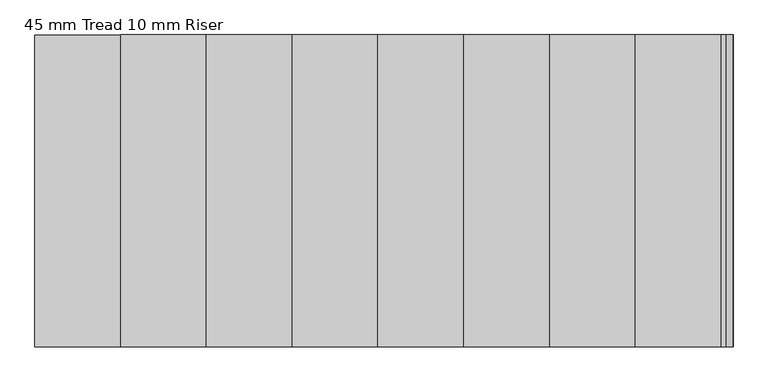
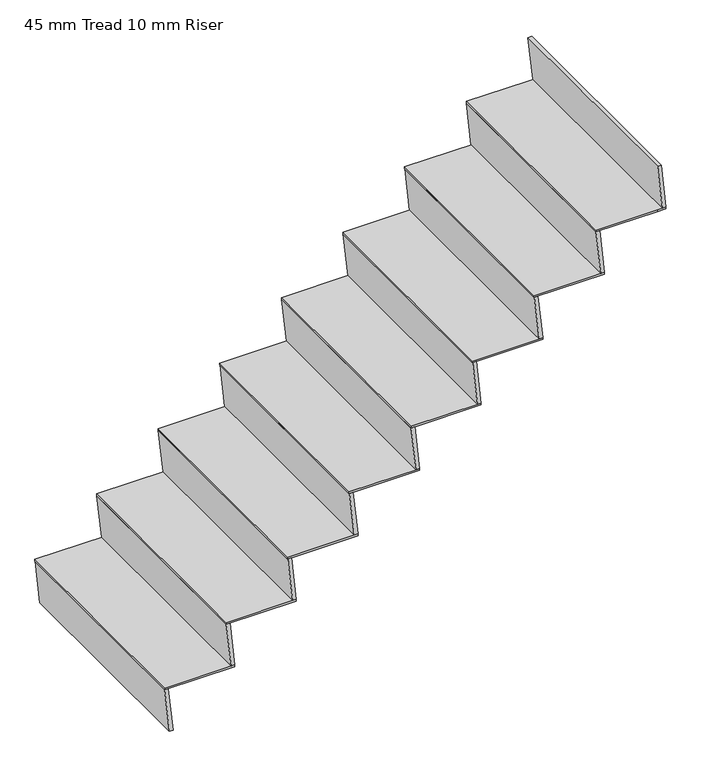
"""IFC4 building model written with IfcOpenShell, lengths in millimetres: stair flight geometry, 45 mm Tread 10 mm Riser."""

from ifc_helpers import new_model, si_unit, origin, place, context, project, spatial, faceted_brep, source, transform, mapped, element, save


def stair_flight_45_mm_tread_10_mm_riser_ba577e64(model_context):
    return source(origin(), model_context, "Body", "Brep", [
        faceted_brep([(12997.5804427, 7700.0, 6892.8571429), (12712.5, 7700.0, 6892.8571429), (12712.5, 6790.0, 6892.8571429), (12997.5804427, 6790.0, 6892.8571429), (12712.5, 7700.0, 6885.3571429), (12997.5804427, 7700.0, 6885.3571429), (12997.5804427, 6790.0, 6885.3571429), (12712.5, 6790.0, 6885.3571429)], [[[0, 1, 2, 3]], [[4, 5, 6, 7]], [[1, 0, 5, 4]], [[2, 1, 4, 7]], [[3, 2, 7, 6]], [[0, 3, 6, 5]]]),
        faceted_brep([(12713.2777778, 6790.0, 6885.3571429), (12732.5, 6790.0, 6700.0), (12747.5804427, 6790.0, 6700.0), (12728.3582205, 6790.0, 6885.3571429), (12713.2777778, 7700.0, 6885.3571429), (12728.3582205, 7700.0, 6885.3571429), (12747.5804427, 7700.0, 6700.0), (12732.5, 7700.0, 6700.0)], [[[0, 1, 2, 3]], [[4, 5, 6, 7]], [[1, 0, 4, 7]], [[2, 1, 7, 6]], [[3, 2, 6, 5]], [[0, 3, 5, 4]]]),
        faceted_brep([(12963.2777778, 6790.0, 7078.2142857), (12982.5, 6790.0, 6892.8571429), (12997.5804427, 6790.0, 6892.8571429), (12978.3582205, 6790.0, 7078.2142857), (12963.2777778, 7700.0, 7078.2142857), (12978.3582205, 7700.0, 7078.2142857), (12997.5804427, 7700.0, 6892.8571429), (12982.5, 7700.0, 6892.8571429)], [[[0, 1, 2, 3]], [[4, 5, 6, 7]], [[1, 0, 4, 7]], [[2, 1, 7, 6]], [[3, 2, 6, 5]], [[0, 3, 5, 4]]]),
        faceted_brep([(13247.5804427, 7700.0, 7085.7142857), (12962.5, 7700.0, 7085.7142857), (12962.5, 6790.0, 7085.7142857), (13247.5804427, 6790.0, 7085.7142857), (12962.5, 7700.0, 7078.2142857), (13247.5804427, 7700.0, 7078.2142857), (13247.5804427, 6790.0, 7078.2142857), (12962.5, 6790.0, 7078.2142857)], [[[0, 1, 2, 3]], [[4, 5, 6, 7]], [[1, 0, 5, 4]], [[2, 1, 4, 7]], [[3, 2, 7, 6]], [[0, 3, 6, 5]]]),
        faceted_brep([(13213.2777778, 6790.0, 7271.0714286), (13232.5, 6790.0, 7085.7142857), (13247.5804427, 6790.0, 7085.7142857), (13228.3582205, 6790.0, 7271.0714286), (13213.2777778, 7700.0, 7271.0714286), (13228.3582205, 7700.0, 7271.0714286), (13247.5804427, 7700.0, 7085.7142857), (13232.5, 7700.0, 7085.7142857)], [[[0, 1, 2, 3]], [[4, 5, 6, 7]], [[1, 0, 4, 7]], [[2, 1, 7, 6]], [[3, 2, 6, 5]], [[0, 3, 5, 4]]]),
        faceted_brep([(13497.5804427, 7700.0, 7278.5714286), (13212.5, 7700.0, 7278.5714286), (13212.5, 6790.0, 7278.5714286), (13497.5804427, 6790.0, 7278.5714286), (13212.5, 7700.0, 7271.0714286), (13497.5804427, 7700.0, 7271.0714286), (13497.5804427, 6790.0, 7271.0714286), (13212.5, 6790.0, 7271.0714286)], [[[0, 1, 2, 3]], [[4, 5, 6, 7]], [[1, 0, 5, 4]], [[2, 1, 4, 7]], [[3, 2, 7, 6]], [[0, 3, 6, 5]]]),
        faceted_brep([(13463.2777778, 6790.0, 7463.9285714), (13482.5, 6790.0, 7278.5714286), (13497.5804427, 6790.0, 7278.5714286), (13478.3582205, 6790.0, 7463.9285714), (13463.2777778, 7700.0, 7463.9285714), (13478.3582205, 7700.0, 7463.9285714), (13497.5804427, 7700.0, 7278.5714286), (13482.5, 7700.0, 7278.5714286)], [[[0, 1, 2, 3]], [[4, 5, 6, 7]], [[1, 0, 4, 7]], [[2, 1, 7, 6]], [[3, 2, 6, 5]], [[0, 3, 5, 4]]]),
        faceted_brep([(13747.5804427, 7700.0, 7471.4285714), (13462.5, 7700.0, 7471.4285714), (13462.5, 6790.0, 7471.4285714), (13747.5804427, 6790.0, 7471.4285714), (13462.5, 7700.0, 7463.9285714), (13747.5804427, 7700.0, 7463.9285714), (13747.5804427, 6790.0, 7463.9285714), (13462.5, 6790.0, 7463.9285714)], [[[0, 1, 2, 3]], [[4, 5, 6, 7]], [[1, 0, 5, 4]], [[2, 1, 4, 7]], [[3, 2, 7, 6]], [[0, 3, 6, 5]]]),
        faceted_brep([(13713.2777778, 6790.0, 7656.7857143), (13732.5, 6790.0, 7471.4285714), (13747.5804427, 6790.0, 7471.4285714), (13728.3582205, 6790.0, 7656.7857143), (13713.2777778, 7700.0, 7656.7857143), (13728.3582205, 7700.0, 7656.7857143), (13747.5804427, 7700.0, 7471.4285714), (13732.5, 7700.0, 7471.4285714)], [[[0, 1, 2, 3]], [[4, 5, 6, 7]], [[1, 0, 4, 7]], [[2, 1, 7, 6]], [[3, 2, 6, 5]], [[0, 3, 5, 4]]]),
        faceted_brep([(13997.5804427, 7700.0, 7664.2857143), (13712.5, 7700.0, 7664.2857143), (13712.5, 6790.0, 7664.2857143), (13997.5804427, 6790.0, 7664.2857143), (13712.5, 7700.0, 7656.7857143), (13997.5804427, 7700.0, 7656.7857143), (13997.5804427, 6790.0, 7656.7857143), (13712.5, 6790.0, 7656.7857143)], [[[0, 1, 2, 3]], [[4, 5, 6, 7]], [[1, 0, 5, 4]], [[2, 1, 4, 7]], [[3, 2, 7, 6]], [[0, 3, 6, 5]]]),
        faceted_brep([(13963.2777778, 6790.0, 7849.6428571), (13982.5, 6790.0, 7664.2857143), (13997.5804427, 6790.0, 7664.2857143), (13978.3582205, 6790.0, 7849.6428571), (13963.2777778, 7700.0, 7849.6428571), (13978.3582205, 7700.0, 7849.6428571), (13997.5804427, 7700.0, 7664.2857143), (13982.5, 7700.0, 7664.2857143)], [[[0, 1, 2, 3]], [[4, 5, 6, 7]], [[1, 0, 4, 7]], [[2, 1, 7, 6]], [[3, 2, 6, 5]], [[0, 3, 5, 4]]]),
        faceted_brep([(14247.5804427, 7700.0, 7857.1428571), (13962.5, 7700.0, 7857.1428571), (13962.5, 6790.0, 7857.1428571), (14247.5804427, 6790.0, 7857.1428571), (13962.5, 7700.0, 7849.6428571), (14247.5804427, 7700.0, 7849.6428571), (14247.5804427, 6790.0, 7849.6428571), (13962.5, 6790.0, 7849.6428571)], [[[0, 1, 2, 3]], [[4, 5, 6, 7]], [[1, 0, 5, 4]], [[2, 1, 4, 7]], [[3, 2, 7, 6]], [[0, 3, 6, 5]]]),
        faceted_brep([(14213.2777778, 6790.0, 8042.5), (14232.5, 6790.0, 7857.1428571), (14247.5804427, 6790.0, 7857.1428571), (14228.3582205, 6790.0, 8042.5), (14213.2777778, 7700.0, 8042.5), (14228.3582205, 7700.0, 8042.5), (14247.5804427, 7700.0, 7857.1428571), (14232.5, 7700.0, 7857.1428571)], [[[0, 1, 2, 3]], [[4, 5, 6, 7]], [[1, 0, 4, 7]], [[2, 1, 7, 6]], [[3, 2, 6, 5]], [[0, 3, 5, 4]]]),
        faceted_brep([(14497.5804427, 7700.0, 8050.0), (14212.5, 7700.0, 8050.0), (14212.5, 6790.0, 8050.0), (14497.5804427, 6790.0, 8050.0), (14212.5, 7700.0, 8042.5), (14497.5804427, 7700.0, 8042.5), (14497.5804427, 6790.0, 8042.5), (14212.5, 6790.0, 8042.5)], [[[0, 1, 2, 3]], [[4, 5, 6, 7]], [[1, 0, 5, 4]], [[2, 1, 4, 7]], [[3, 2, 7, 6]], [[0, 3, 6, 5]]]),
        faceted_brep([(14713.2777778, 6790.0, 8428.2142857), (14732.5, 6790.0, 8242.8571429), (14747.5804427, 6790.0, 8242.8571429), (14728.3582205, 6790.0, 8428.2142857), (14713.2777778, 7700.0000224, 8428.2142857), (14728.3582205, 7700.0000224, 8428.2142857), (14747.5804427, 7700.0000224, 8242.8571429), (14732.5, 7700.0000224, 8242.8571429)], [[[0, 1, 2, 3]], [[4, 5, 6, 7]], [[1, 0, 4, 7]], [[2, 1, 7, 6]], [[3, 2, 6, 5]], [[0, 3, 5, 4]]]),
        faceted_brep([(14463.2777778, 6790.0, 8235.3571429), (14482.5, 6790.0, 8050.0), (14497.5804427, 6790.0, 8050.0), (14478.3582205, 6790.0, 8235.3571429), (14463.2777778, 7700.0, 8235.3571429), (14478.3582205, 7700.0, 8235.3571429), (14497.5804427, 7700.0, 8050.0), (14482.5, 7700.0, 8050.0)], [[[0, 1, 2, 3]], [[4, 5, 6, 7]], [[1, 0, 4, 7]], [[2, 1, 7, 6]], [[3, 2, 6, 5]], [[0, 3, 5, 4]]]),
        faceted_brep([(14747.5804427, 7700.0000224, 8242.8571429), (14712.5, 7700.0000224, 8242.8571429), (14462.5, 7700.0, 8242.8571429), (14462.5, 6790.0, 8242.8571429), (14712.5, 6790.0, 8242.8571429), (14747.5804427, 6790.0, 8242.8571429), (14712.5, 7700.0000224, 8235.3571429), (14747.5804427, 7700.0000224, 8235.3571429), (14747.5804427, 6790.0, 8235.3571429), (14712.5, 6790.0, 8235.3571429), (14462.5, 6790.0, 8235.3571429), (14462.5, 7700.0, 8235.3571429)], [[[0, 1, 2, 3, 4, 5]], [[6, 7, 8, 9, 10, 11]], [[1, 0, 7, 6]], [[2, 1, 6, 11]], [[3, 2, 11, 10]], [[4, 3, 10, 9]], [[5, 4, 9, 8]], [[0, 5, 8, 7]]]),
    ])


if __name__ == "__main__":
    model = new_model("IFC4")
    model_context = context("Model", 3, world=origin())
    ifc_project = project(units=[si_unit("LENGTHUNIT", "METRE", prefix="MILLI")], contexts=[model_context])
    site = spatial("IfcSite", under=ifc_project)
    building = spatial("IfcBuilding", under=site)
    placement = place(None, origin())
    stair_flight_45_mm_tread_10_mm_riser_shape = stair_flight_45_mm_tread_10_mm_riser_ba577e64(model_context)
    element("IfcStairFlight", 1, ObjectType="45 mm Tread 10 mm Riser", at=placement, inside=building, context=model_context, shape_type="MappedRepresentation", body=[
        mapped(stair_flight_45_mm_tread_10_mm_riser_shape, transform((0.0, 0.0, 0.0), x_axis=(1.0, 0.0, 0.0), y_axis=(0.0, 1.0, 0.0), z_axis=(0.0, 0.0, 1.0))),
    ])
    save(model, "model.ifc")
